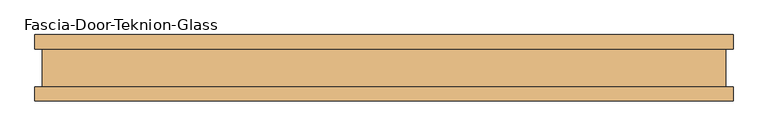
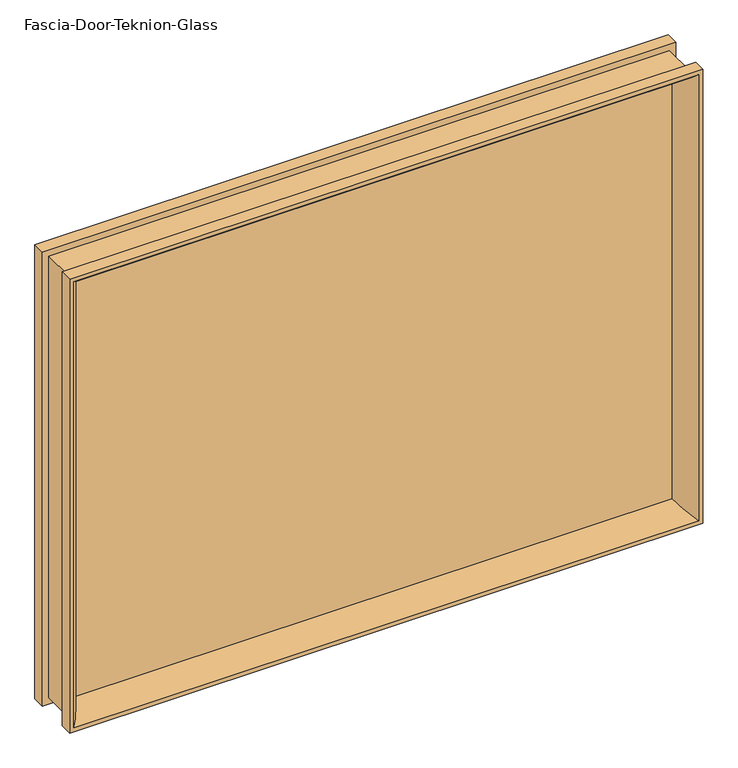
"""IFC4 building model written with IfcOpenShell, lengths in millimetres: door geometry, Fascia-Door-Teknion-Glass : FPGC."""

from ifc_helpers import new_model, si_unit, frame, origin, place, context, project, spatial, polyline, ellipse_curve, outline, extrude, source, transform, mapped, element, save
from ifc_brep_helpers import plane_surface, cylinder_surface, advanced_brep


def fascia_door_teknion_glass_cfa58dbe(model_context):
    return source(origin(), model_context, "Body", "SolidModel", [
        advanced_brep(
        [(503.6977675, 5.0827449, 779.5923332), (521.6526179, 50.0558594, 797.5471836), (521.6526179, 50.0558594, 10.1728164), (503.6977675, 5.0827449, 28.1276668), (514.1879586, -5.0827449, 790.0825243), (514.1879586, 5.0827449, 790.0825243), (514.1879586, 5.0827449, 17.6374757), (514.1879586, -5.0827449, 17.6374757), (521.6526179, -50.0558594, 797.5471836), (503.6977675, -5.0827449, 779.5923332), (503.6977675, -5.0827449, 28.1276668), (521.6526179, -50.0558594, 10.1728164), (528.6504343, -28.8801202, 804.545), (528.6504343, -50.0558594, 804.545), (528.6504343, -50.0558594, 3.175), (528.6504343, -28.8801202, 3.175), (517.8254344, 28.2698798, 793.7200001), (517.8254344, -28.8801202, 793.7200001), (517.8254344, -28.8801202, 13.9999999), (517.8254344, 28.2698798, 13.9999999), (528.6504343, 50.0558594, 804.545), (528.6504343, 28.2698798, 804.545), (528.6504343, 28.2698798, 3.175), (528.6504343, 50.0558594, 3.175), (-521.6526179, 50.0558594, 10.1728164), (-503.6977675, 5.0827449, 28.1276668), (-514.1879586, 5.0827449, 17.6374757), (-514.1879586, -5.0827449, 17.6374757), (-503.6977675, -5.0827449, 28.1276668), (-521.6526179, -50.0558594, 10.1728164), (-528.6504343, -50.0558594, 3.175), (-528.6504343, -28.8801202, 3.175), (-517.8254344, -28.8801202, 13.9999999), (-517.8254344, 28.2698798, 13.9999999), (-528.6504343, 28.2698798, 3.175), (-528.6504343, 50.0558594, 3.175), (-521.6526179, 50.0558594, 797.5471836), (-503.6977675, 5.0827449, 779.5923332), (-514.1879586, 5.0827449, 790.0825243), (-514.1879586, -5.0827449, 790.0825243), (-503.6977675, -5.0827449, 779.5923332), (-521.6526179, -50.0558594, 797.5471836), (-528.6504343, -50.0558594, 804.545), (-528.6504343, -28.8801202, 804.545), (-517.8254344, -28.8801202, 793.7200001), (-517.8254344, 28.2698798, 793.7200001), (-528.6504343, 28.2698798, 804.545), (-528.6504343, 50.0558594, 804.545)],
        [
            (0, 1, ellipse_curve(frame((555.7840049, 10.3587469, 831.6785705), z_axis=(0.7071067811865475, 0.0, -0.7071067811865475), x_axis=(0.7071067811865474, 0.0, 0.7071067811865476)), 74.0379946, 52.352768)),
            (1, 2),
            (2, 3, ellipse_curve(frame((555.7840049, 10.3587469, -23.9585705), z_axis=(0.7071067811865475, 0.0, 0.7071067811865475), x_axis=(-0.7071067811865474, 0.0, 0.7071067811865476)), 74.0379946, 52.352768)),
            (3, 0),
            (4, 5),
            (5, 6),
            (6, 7),
            (7, 4),
            (8, 9, ellipse_curve(frame((555.7840049, -10.3587469, 831.6785705), z_axis=(0.7071067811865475, 0.0, -0.7071067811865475), x_axis=(0.7071067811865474, 0.0, 0.7071067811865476)), 74.0379946, 52.352768)),
            (9, 10),
            (10, 11, ellipse_curve(frame((555.7840049, -10.3587469, -23.9585705), z_axis=(0.7071067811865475, 0.0, 0.7071067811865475), x_axis=(-0.7071067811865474, 0.0, 0.7071067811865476)), 74.0379946, 52.352768)),
            (11, 8),
            (12, 13),
            (13, 14),
            (14, 15),
            (15, 12),
            (16, 17),
            (17, 18),
            (18, 19),
            (19, 16),
            (20, 21),
            (21, 22),
            (22, 23),
            (23, 20),
            (2, 24),
            (24, 25, ellipse_curve(frame((-555.7840049, 10.3587469, -23.9585705), z_axis=(0.7071067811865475, 0.0, -0.7071067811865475), x_axis=(0.7071067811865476, 0.0, 0.7071067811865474)), 74.0379946, 52.352768)),
            (25, 3),
            (6, 26),
            (26, 27),
            (27, 7),
            (10, 28),
            (28, 29, ellipse_curve(frame((-555.7840049, -10.3587469, -23.9585705), z_axis=(0.7071067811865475, 0.0, -0.7071067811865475), x_axis=(0.7071067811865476, 0.0, 0.7071067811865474)), 74.0379946, 52.352768)),
            (29, 11),
            (14, 30),
            (30, 31),
            (31, 15),
            (18, 32),
            (32, 33),
            (33, 19),
            (22, 34),
            (34, 35),
            (35, 23),
            (24, 36),
            (36, 37, ellipse_curve(frame((-555.7840049, 10.3587469, 831.6785705), z_axis=(-0.7071067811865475, 0.0, -0.7071067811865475), x_axis=(0.7071067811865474, 0.0, -0.7071067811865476)), 74.0379946, 52.352768)),
            (37, 25),
            (26, 38),
            (38, 39),
            (39, 27),
            (28, 40),
            (40, 41, ellipse_curve(frame((-555.7840049, -10.3587469, 831.6785705), z_axis=(-0.7071067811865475, 0.0, -0.7071067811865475), x_axis=(0.7071067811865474, 0.0, -0.7071067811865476)), 74.0379946, 52.352768)),
            (41, 29),
            (30, 42),
            (42, 43),
            (43, 31),
            (32, 44),
            (44, 45),
            (45, 33),
            (34, 46),
            (46, 47),
            (47, 35),
            (47, 20),
            (1, 36),
            (0, 37),
            (5, 38),
            (4, 39),
            (9, 40),
            (8, 41),
            (13, 42),
            (12, 43),
            (17, 44),
            (16, 45),
            (21, 46),
        ],
        [
            cylinder_surface(frame((555.7840049, 10.3587469, 804.545), z_axis=(0.0, 0.0, 1.0), x_axis=(1.0, 0.0, 0.0)), 52.352768),
            plane_surface(frame((514.1879586, 5.0827449, 790.0825243), z_axis=(-1.0, 0.0, 0.0), x_axis=(0.0, 0.0, -1.0))),
            cylinder_surface(frame((555.7840049, -10.3587469, 804.545), z_axis=(0.0, 0.0, 1.0), x_axis=(1.0, 0.0, 0.0)), 52.352768),
            plane_surface(frame((528.6504343, -50.0558594, 804.545), z_axis=(1.0, 0.0, 0.0), x_axis=(0.0, 0.0, -1.0))),
            plane_surface(frame((517.8254344, -28.8801202, 793.7200001), z_axis=(1.0, 0.0, 0.0), x_axis=(0.0, 0.0, -1.0))),
            plane_surface(frame((528.6504343, 28.2698798, 804.545), z_axis=(1.0, 0.0, 0.0), x_axis=(0.0, 0.0, -1.0))),
            cylinder_surface(frame((528.6504343, 10.3587469, -23.9585705), z_axis=(1.0, 0.0, 0.0), x_axis=(0.0, 0.0, -1.0)), 52.352768),
            plane_surface(frame((514.1879586, 5.0827449, 17.6374757), z_axis=(0.0, 0.0, 1.0), x_axis=(-1.0, 0.0, 0.0))),
            cylinder_surface(frame((528.6504343, -10.3587469, -23.9585705), z_axis=(1.0, 0.0, 0.0), x_axis=(0.0, 0.0, -1.0)), 52.352768),
            plane_surface(frame((528.6504343, -50.0558594, 3.175), z_axis=(0.0, 0.0, -1.0), x_axis=(-1.0, 0.0, 0.0))),
            plane_surface(frame((517.8254344, -28.8801202, 13.9999999), z_axis=(0.0, 0.0, -1.0), x_axis=(-1.0, 0.0, 0.0))),
            plane_surface(frame((528.6504343, 28.2698798, 3.175), z_axis=(0.0, 0.0, -1.0), x_axis=(-1.0, 0.0, 0.0))),
            cylinder_surface(frame((-555.7840049, 10.3587469, 3.175), z_axis=(0.0, 0.0, -1.0), x_axis=(-1.0, 0.0, 0.0)), 52.352768),
            plane_surface(frame((-514.1879586, 5.0827449, 17.6374757), z_axis=(1.0, 0.0, 0.0), x_axis=(0.0, 0.0, 1.0))),
            cylinder_surface(frame((-555.7840049, -10.3587469, 3.175), z_axis=(0.0, 0.0, -1.0), x_axis=(-1.0, 0.0, 0.0)), 52.352768),
            plane_surface(frame((-528.6504343, -50.0558594, 3.175), z_axis=(-1.0, 0.0, 0.0), x_axis=(0.0, 0.0, 1.0))),
            plane_surface(frame((-517.8254344, -28.8801202, 13.9999999), z_axis=(-1.0, 0.0, 0.0), x_axis=(0.0, 0.0, 1.0))),
            plane_surface(frame((-528.6504343, 28.2698798, 3.175), z_axis=(-1.0, 0.0, 0.0), x_axis=(0.0, 0.0, 1.0))),
            plane_surface(frame((-528.6504343, 50.0558594, 804.545), z_axis=(0.0, 1.0, 0.0), x_axis=(1.0, 0.0, 0.0))),
            cylinder_surface(frame((-528.6504343, 10.3587469, 831.6785705), z_axis=(-1.0, 0.0, 0.0), x_axis=(0.0, 0.0, 1.0)), 52.352768),
            plane_surface(frame((-503.6977675, 5.0827449, 779.5923332), z_axis=(0.0, -1.0, 0.0), x_axis=(1.0, 0.0, 0.0))),
            plane_surface(frame((-514.1879586, 5.0827449, 790.0825243), z_axis=(0.0, 0.0, -1.0), x_axis=(1.0, 0.0, 0.0))),
            plane_surface(frame((-514.1879586, -5.0827449, 790.0825243), z_axis=(0.0, 1.0, 0.0), x_axis=(1.0, 0.0, 0.0))),
            cylinder_surface(frame((-528.6504343, -10.3587469, 831.6785705), z_axis=(-1.0, 0.0, 0.0), x_axis=(0.0, 0.0, 1.0)), 52.352768),
            plane_surface(frame((-521.6526179, -50.0558594, 797.5471836), z_axis=(0.0, -1.0, 0.0), x_axis=(1.0, 0.0, 0.0))),
            plane_surface(frame((-528.6504343, -50.0558594, 804.545), z_axis=(0.0, 0.0, 1.0), x_axis=(1.0, 0.0, 0.0))),
            plane_surface(frame((-528.6504343, -28.8801202, 804.545), z_axis=(0.0, 1.0, 0.0), x_axis=(1.0, 0.0, 0.0))),
            plane_surface(frame((-517.8254344, -28.8801202, 793.7200001), z_axis=(0.0, 0.0, 1.0), x_axis=(1.0, 0.0, 0.0))),
            plane_surface(frame((-517.8254344, 28.2698798, 793.7200001), z_axis=(0.0, -1.0, 0.0), x_axis=(1.0, 0.0, 0.0))),
            plane_surface(frame((-528.6504343, 28.2698798, 804.545), z_axis=(0.0, 0.0, 1.0), x_axis=(1.0, 0.0, 0.0))),
        ],
        [
            (0, [[1, 2, 3, 4]]),
            (1, [[5, 6, 7, 8]]),
            (2, [[9, 10, 11, 12]]),
            (3, [[13, 14, 15, 16]]),
            (4, [[17, 18, 19, 20]]),
            (5, [[21, 22, 23, 24]]),
            (6, [[-3, 25, 26, 27]]),
            (7, [[-7, 28, 29, 30]]),
            (8, [[-11, 31, 32, 33]]),
            (9, [[-15, 34, 35, 36]]),
            (10, [[-19, 37, 38, 39]]),
            (11, [[-23, 40, 41, 42]]),
            (12, [[-26, 43, 44, 45]]),
            (13, [[-29, 46, 47, 48]]),
            (14, [[-32, 49, 50, 51]]),
            (15, [[-35, 52, 53, 54]]),
            (16, [[-38, 55, 56, 57]]),
            (17, [[-41, 58, 59, 60]]),
            (18, [[-42, -60, 61, -24], [62, -43, -25, -2]]),
            (19, [[-44, -62, -1, 63]]),
            (20, [[64, -46, -28, -6], [-27, -45, -63, -4]]),
            (21, [[-47, -64, -5, 65]]),
            (22, [[-30, -48, -65, -8], [66, -49, -31, -10]]),
            (23, [[-50, -66, -9, 67]]),
            (24, [[68, -52, -34, -14], [-33, -51, -67, -12]]),
            (25, [[-53, -68, -13, 69]]),
            (26, [[-36, -54, -69, -16], [70, -55, -37, -18]]),
            (27, [[-56, -70, -17, 71]]),
            (28, [[72, -58, -40, -22], [-39, -57, -71, -20]]),
            (29, [[-59, -72, -21, -61]]),
        ],
    ),
        extrude(outline(polyline([(514.1879586, 2.9765625), (514.1879586, -2.9765625), (-514.1879586, -2.9765625), (-514.1879586, 2.9765625), (514.1879586, 2.9765625)])), frame((0.0, 0.0, 17.6374757), z_axis=(0.0, 0.0, 1.0), x_axis=(1.0, 0.0, 0.0)), (0.0, 0.0, 1.0), 772.4450485),
    ])


if __name__ == "__main__":
    model = new_model("IFC4")
    model_context = context("Model", 3, world=origin())
    ifc_project = project(units=[si_unit("LENGTHUNIT", "METRE", prefix="MILLI")], contexts=[model_context])
    site = spatial("IfcSite", under=ifc_project)
    building = spatial("IfcBuilding", under=site)
    placement = place(None, origin())
    fascia_door_teknion_glass_shape = fascia_door_teknion_glass_cfa58dbe(model_context)
    element("IfcDoor", 1, ObjectType="Fascia-Door-Teknion-Glass : FPGC", at=placement, inside=building, context=model_context, shape_type="MappedRepresentation", body=[
        mapped(fascia_door_teknion_glass_shape, transform((0.0, 0.0, 0.0), x_axis=(1.0, 0.0, 0.0), y_axis=(0.0, 1.0, 0.0), z_axis=(0.0, 0.0, 1.0))),
    ])
    save(model, "model.ifc")
